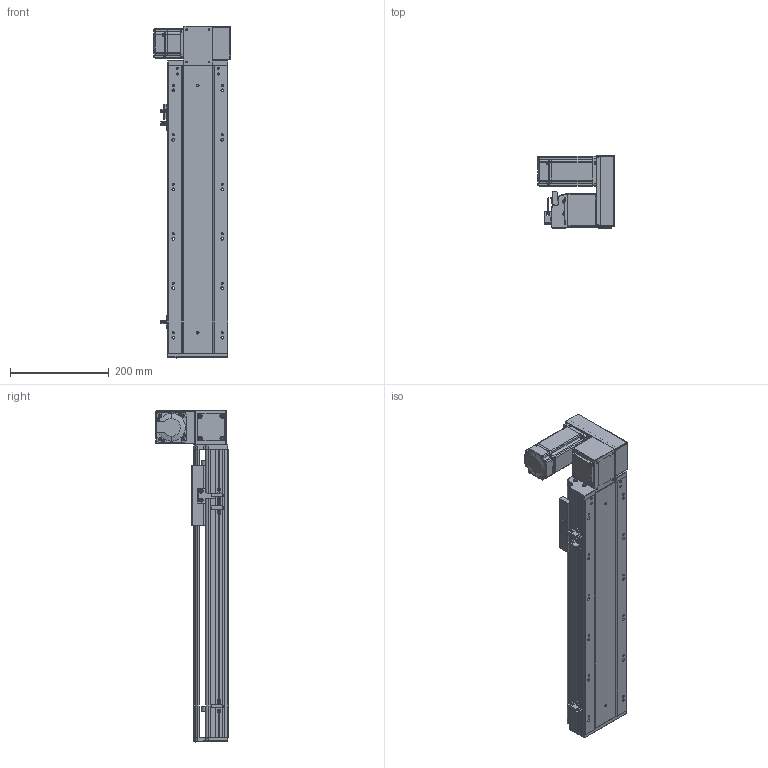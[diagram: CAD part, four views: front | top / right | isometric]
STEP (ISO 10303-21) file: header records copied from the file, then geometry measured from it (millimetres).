
FILE_DESCRIPTION (( 'STEP AP203' ), '1' );
FILE_NAME ('RY120-T-300-UR.SLDASM_350.step', '2021-03-01T05:55:34', ( '盈信电脑' ), ( '东莞市道滘镇水果街19号' ), 'SwSTEP 2.0', 'SolidWorks 2012', '' );
FILE_SCHEMA (( 'CONFIG_CONTROL_DESIGN' ));
Length unit declared in the file: millimetre
Products named in the file (17): RY120-T-300-UR.SLDASM_350; RY120-T主同步轮轴承压盖; RY120-T萇儂欶; RY120-T蹟翐M4; RY120-T翋肮祭謫裔啣; 15; RY120-T萇儂假蚾啣; RY120-T翋肮祭盓傅釱; 滅袉蝶18-10; RY120-T肮祭湍揤踡輸1; RY120外置感应片(140共用）; 覜茼ん672; RY120-T肮祭湍揤踡輸2; RY120肮祭湍臏賑輸; RY120-T-300-UR倰第奻裔啣_350; RY120綴裔啣; RY120-T-300-UR倰第菁釱_350
Assembly tree (22 placements, depth 2):
  RY120-T-300-UR.SLDASM_350
    RY120-T-300-UR倰第菁釱_350
    RY120-T-300-UR倰第奻裔啣_350
    RY120肮祭湍臏賑輸
    RY120綴裔啣
    覜茼ん672  x3
    RY120外置感应片(140共用）
    RY120-T肮祭湍揤踡輸1
    RY120-T肮祭湍揤踡輸2
    RY120-T翋肮祭盓傅釱
    RY120-T萇儂假蚾啣
    滅袉蝶18-10  x2
    RY120-T翋肮祭謫裔啣
    15
    RY120-T蹟翐M4  x4
    RY120-T萇儂欶
    RY120-T主同步轮轴承压盖
Bounding box: 155.5 x 146 x 671 mm (x, y, z)
Volume: 2191903.9 mm3; surface area: 786987.6 mm2
Topology: 23 solids, 23 shells, 2690 faces, 7332 edges, 4728 vertices
Faces by surface type: plane 1406, cylinder 990, cone 205, bspline 89
Entity records: 85435 total; most frequent: CARTESIAN_POINT 21566, ORIENTED_EDGE 13176, DIRECTION 12434, EDGE_CURVE 6588, VERTEX_POINT 4315, VECTOR 4180, LINE 4180, AXIS2_PLACEMENT_3D 4127
